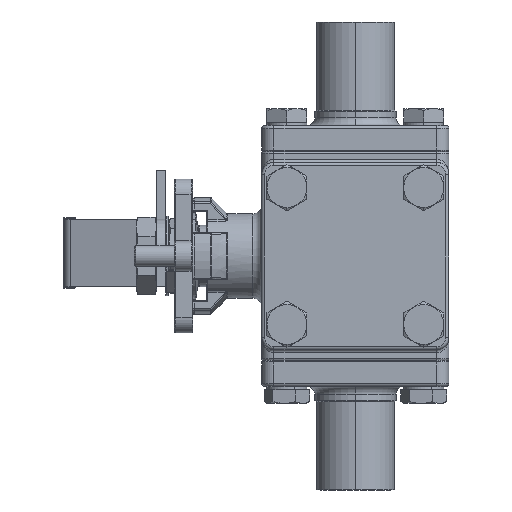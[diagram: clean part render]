
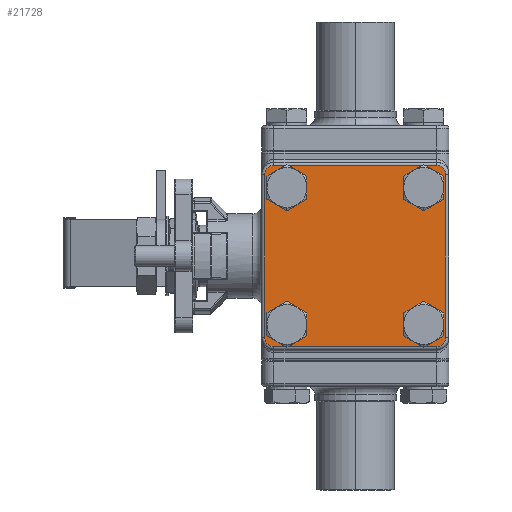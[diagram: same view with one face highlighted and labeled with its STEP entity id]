
A CAD part, left-side view. The second image highlights one B-rep face of the part: STEP entity #21728.
In plain terms, the highlighted planar face has unit normal (-1, 0, 0) as drawn and (0, 0, 1) by its records, which use the part's own axes.
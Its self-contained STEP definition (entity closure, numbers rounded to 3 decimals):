
#344 = ORIENTED_EDGE ( 'NONE', *, *, #7309, .F. ) ;
#504 = FACE_BOUND ( 'NONE', #26046, .T. ) ;
#784 = CARTESIAN_POINT ( 'NONE',  ( 26.5, -29.5, 7. ) ) ;
#1365 = CARTESIAN_POINT ( 'NONE',  ( 22.274, 22.274, 7. ) ) ;
#1380 = VERTEX_POINT ( 'NONE', #20050 ) ;
#1563 = DIRECTION ( 'NONE',  ( 1., 0., 0. ) ) ;
#2335 = EDGE_CURVE ( 'NONE', #16584, #25704, #28468, .T. ) ;
#3190 = DIRECTION ( 'NONE',  ( 0., 0., 1. ) ) ;
#3837 = AXIS2_PLACEMENT_3D ( 'NONE', #24438, #5928, #24313 ) ;
#3870 = DIRECTION ( 'NONE',  ( 1., 0., 0. ) ) ;
#3921 = EDGE_LOOP ( 'NONE', ( #33376, #10605 ) ) ;
#3970 = LINE ( 'NONE', #10230, #24804 ) ;
#4074 = ORIENTED_EDGE ( 'NONE', *, *, #11111, .T. ) ;
#4133 = EDGE_CURVE ( 'NONE', #21321, #20238, #14710, .T. ) ;
#4244 = DIRECTION ( 'NONE',  ( 1., 0., 0. ) ) ;
#4262 = CARTESIAN_POINT ( 'NONE',  ( 29.5, 26.5, 7. ) ) ;
#4586 = CARTESIAN_POINT ( 'NONE',  ( -22.274, 22.274, 7. ) ) ;
#4723 = ORIENTED_EDGE ( 'NONE', *, *, #30324, .T. ) ;
#5213 = AXIS2_PLACEMENT_3D ( 'NONE', #9221, #17485, #1563 ) ;
#5489 = DIRECTION ( 'NONE',  ( 0., 0., 1. ) ) ;
#5542 = CARTESIAN_POINT ( 'NONE',  ( -26.5, -26.5, 7. ) ) ;
#5695 = VECTOR ( 'NONE', #24724, 1000. ) ;
#5829 = ORIENTED_EDGE ( 'NONE', *, *, #4133, .T. ) ;
#5928 = DIRECTION ( 'NONE',  ( 0., 0., 1. ) ) ;
#6540 = LINE ( 'NONE', #784, #5695 ) ;
#6738 = EDGE_CURVE ( 'NONE', #11920, #21321, #16259, .T. ) ;
#6892 = VERTEX_POINT ( 'NONE', #11539 ) ;
#7008 = CARTESIAN_POINT ( 'NONE',  ( 29.5, 26.5, 7. ) ) ;
#7091 = CIRCLE ( 'NONE', #12748, 4.5 ) ;
#7130 = DIRECTION ( 'NONE',  ( 1., 0., 0. ) ) ;
#7219 = CIRCLE ( 'NONE', #29621, 4.5 ) ;
#7309 = EDGE_CURVE ( 'NONE', #14213, #1380, #7091, .T. ) ;
#7337 = DIRECTION ( 'NONE',  ( 0., 0., 1. ) ) ;
#8015 = CIRCLE ( 'NONE', #25501, 4.5 ) ;
#8991 = CARTESIAN_POINT ( 'NONE',  ( 22.274, -22.274, 7. ) ) ;
#9092 = EDGE_CURVE ( 'NONE', #21167, #33861, #29851, .T. ) ;
#9209 = AXIS2_PLACEMENT_3D ( 'NONE', #20068, #25390, #3870 ) ;
#9221 = CARTESIAN_POINT ( 'NONE',  ( -22.274, 22.274, 7. ) ) ;
#9286 = ORIENTED_EDGE ( 'NONE', *, *, #11095, .T. ) ;
#9577 = DIRECTION ( 'NONE',  ( 0., 0., 1. ) ) ;
#9897 = VERTEX_POINT ( 'NONE', #23008 ) ;
#10013 = CARTESIAN_POINT ( 'NONE',  ( -17.774, -22.274, 7. ) ) ;
#10124 = DIRECTION ( 'NONE',  ( 1., 0., 0. ) ) ;
#10195 = DIRECTION ( 'NONE',  ( 0., 0., 1. ) ) ;
#10230 = CARTESIAN_POINT ( 'NONE',  ( -26.5, 29.5, 7. ) ) ;
#10453 = PLANE ( 'NONE',  #21633 ) ;
#10484 = EDGE_CURVE ( 'NONE', #21372, #11722, #17790, .T. ) ;
#10605 = ORIENTED_EDGE ( 'NONE', *, *, #9092, .F. ) ;
#10792 = DIRECTION ( 'NONE',  ( 0., 0., 1. ) ) ;
#11095 = EDGE_CURVE ( 'NONE', #27937, #9897, #33900, .T. ) ;
#11111 = EDGE_CURVE ( 'NONE', #31899, #6892, #3970, .T. ) ;
#11539 = CARTESIAN_POINT ( 'NONE',  ( -26.5, 29.5, 7. ) ) ;
#11722 = VERTEX_POINT ( 'NONE', #25983 ) ;
#11914 = AXIS2_PLACEMENT_3D ( 'NONE', #29029, #18247, #13223 ) ;
#11920 = VERTEX_POINT ( 'NONE', #21778 ) ;
#12538 = CIRCLE ( 'NONE', #3837, 3. ) ;
#12748 = AXIS2_PLACEMENT_3D ( 'NONE', #1365, #27953, #30643 ) ;
#12774 = DIRECTION ( 'NONE',  ( 0., -1., 0. ) ) ;
#12808 = ORIENTED_EDGE ( 'NONE', *, *, #31864, .F. ) ;
#12862 = DIRECTION ( 'NONE',  ( 1., 0., 0. ) ) ;
#12936 = ORIENTED_EDGE ( 'NONE', *, *, #2335, .F. ) ;
#13223 = DIRECTION ( 'NONE',  ( 1., 0., 0. ) ) ;
#13505 = DIRECTION ( 'NONE',  ( 1., 0., 0. ) ) ;
#13645 = CARTESIAN_POINT ( 'NONE',  ( 26.774, -22.274, 7. ) ) ;
#14213 = VERTEX_POINT ( 'NONE', #24212 ) ;
#14234 = FACE_BOUND ( 'NONE', #3921, .T. ) ;
#14403 = EDGE_CURVE ( 'NONE', #33861, #21167, #8015, .T. ) ;
#14710 = LINE ( 'NONE', #4262, #30521 ) ;
#14763 = ORIENTED_EDGE ( 'NONE', *, *, #25409, .T. ) ;
#15059 = CIRCLE ( 'NONE', #25763, 3. ) ;
#15121 = EDGE_CURVE ( 'NONE', #9897, #25590, #15059, .T. ) ;
#15923 = EDGE_LOOP ( 'NONE', ( #344, #21529 ) ) ;
#16144 = DIRECTION ( 'NONE',  ( 1., 0., 0. ) ) ;
#16259 = CIRCLE ( 'NONE', #29831, 3. ) ;
#16461 = ORIENTED_EDGE ( 'NONE', *, *, #15121, .T. ) ;
#16584 = VERTEX_POINT ( 'NONE', #10013 ) ;
#17231 = CARTESIAN_POINT ( 'NONE',  ( -26.774, 22.274, 7. ) ) ;
#17485 = DIRECTION ( 'NONE',  ( 0., 0., 1. ) ) ;
#17790 = CIRCLE ( 'NONE', #22629, 4.5 ) ;
#17882 = CARTESIAN_POINT ( 'NONE',  ( -26.774, -22.274, 7. ) ) ;
#18247 = DIRECTION ( 'NONE',  ( 0., 0., 1. ) ) ;
#18396 = FACE_BOUND ( 'NONE', #15923, .T. ) ;
#18562 = CARTESIAN_POINT ( 'NONE',  ( 17.774, -22.274, 7. ) ) ;
#18863 = CARTESIAN_POINT ( 'NONE',  ( 22.274, 22.274, 7. ) ) ;
#19217 = ORIENTED_EDGE ( 'NONE', *, *, #32136, .T. ) ;
#19820 = VECTOR ( 'NONE', #12774, 1000. ) ;
#19876 = CARTESIAN_POINT ( 'NONE',  ( -29.5, 26.5, 7. ) ) ;
#20050 = CARTESIAN_POINT ( 'NONE',  ( 26.774, 22.274, 7. ) ) ;
#20068 = CARTESIAN_POINT ( 'NONE',  ( -22.274, -22.274, 7. ) ) ;
#20238 = VERTEX_POINT ( 'NONE', #7008 ) ;
#20584 = ORIENTED_EDGE ( 'NONE', *, *, #24450, .F. ) ;
#20936 = DIRECTION ( 'NONE',  ( -1., 0., 0. ) ) ;
#21167 = VERTEX_POINT ( 'NONE', #13645 ) ;
#21321 = VERTEX_POINT ( 'NONE', #32775 ) ;
#21372 = VERTEX_POINT ( 'NONE', #17231 ) ;
#21448 = CARTESIAN_POINT ( 'NONE',  ( 26.5, -26.5, 7. ) ) ;
#21529 = ORIENTED_EDGE ( 'NONE', *, *, #29492, .F. ) ;
#21540 = DIRECTION ( 'NONE',  ( 0., 0., 1. ) ) ;
#21633 = AXIS2_PLACEMENT_3D ( 'NONE', #28819, #7337, #10124 ) ;
#21728 = ADVANCED_FACE ( 'NONE', ( #28375, #22561, #18396, #14234, #504 ), #10453, .T. ) ;
#21778 = CARTESIAN_POINT ( 'NONE',  ( 26.5, -29.5, 7. ) ) ;
#21918 = DIRECTION ( 'NONE',  ( 1., 0., 0. ) ) ;
#22497 = CARTESIAN_POINT ( 'NONE',  ( 26.5, 29.5, 7. ) ) ;
#22561 = FACE_BOUND ( 'NONE', #27763, .T. ) ;
#22629 = AXIS2_PLACEMENT_3D ( 'NONE', #4586, #10195, #12862 ) ;
#23008 = CARTESIAN_POINT ( 'NONE',  ( -29.5, -26.5, 7. ) ) ;
#24103 = DIRECTION ( 'NONE',  ( 1., 0., 0. ) ) ;
#24169 = CIRCLE ( 'NONE', #9209, 4.5 ) ;
#24212 = CARTESIAN_POINT ( 'NONE',  ( 17.774, 22.274, 7. ) ) ;
#24313 = DIRECTION ( 'NONE',  ( 1., 0., 0. ) ) ;
#24438 = CARTESIAN_POINT ( 'NONE',  ( -26.5, 26.5, 7. ) ) ;
#24450 = EDGE_CURVE ( 'NONE', #11722, #21372, #24898, .T. ) ;
#24724 = DIRECTION ( 'NONE',  ( 1., 0., 0. ) ) ;
#24804 = VECTOR ( 'NONE', #20936, 1000. ) ;
#24815 = AXIS2_PLACEMENT_3D ( 'NONE', #8991, #3190, #21918 ) ;
#24898 = CIRCLE ( 'NONE', #5213, 4.5 ) ;
#25113 = CIRCLE ( 'NONE', #34330, 3. ) ;
#25390 = DIRECTION ( 'NONE',  ( 0., 0., 1. ) ) ;
#25409 = EDGE_CURVE ( 'NONE', #25590, #11920, #6540, .T. ) ;
#25426 = CARTESIAN_POINT ( 'NONE',  ( 26.5, 26.5, 7. ) ) ;
#25501 = AXIS2_PLACEMENT_3D ( 'NONE', #33452, #9577, #7130 ) ;
#25590 = VERTEX_POINT ( 'NONE', #33155 ) ;
#25704 = VERTEX_POINT ( 'NONE', #17882 ) ;
#25763 = AXIS2_PLACEMENT_3D ( 'NONE', #5542, #10792, #16144 ) ;
#25771 = DIRECTION ( 'NONE',  ( 0., 0., 1. ) ) ;
#25983 = CARTESIAN_POINT ( 'NONE',  ( -17.774, 22.274, 7. ) ) ;
#26046 = EDGE_LOOP ( 'NONE', ( #28080, #20584 ) ) ;
#26344 = EDGE_LOOP ( 'NONE', ( #5829, #4723, #4074, #19217, #9286, #16461, #14763, #32419 ) ) ;
#26356 = CARTESIAN_POINT ( 'NONE',  ( -29.5, -26.5, 7. ) ) ;
#27763 = EDGE_LOOP ( 'NONE', ( #12808, #12936 ) ) ;
#27937 = VERTEX_POINT ( 'NONE', #19876 ) ;
#27953 = DIRECTION ( 'NONE',  ( 0., 0., 1. ) ) ;
#28080 = ORIENTED_EDGE ( 'NONE', *, *, #10484, .F. ) ;
#28375 = FACE_OUTER_BOUND ( 'NONE', #26344, .T. ) ;
#28468 = CIRCLE ( 'NONE', #11914, 4.5 ) ;
#28819 = CARTESIAN_POINT ( 'NONE',  ( 26.5, -26.5, 7. ) ) ;
#29029 = CARTESIAN_POINT ( 'NONE',  ( -22.274, -22.274, 7. ) ) ;
#29492 = EDGE_CURVE ( 'NONE', #1380, #14213, #7219, .T. ) ;
#29621 = AXIS2_PLACEMENT_3D ( 'NONE', #18863, #21540, #13505 ) ;
#29831 = AXIS2_PLACEMENT_3D ( 'NONE', #21448, #5489, #24103 ) ;
#29851 = CIRCLE ( 'NONE', #24815, 4.5 ) ;
#30310 = DIRECTION ( 'NONE',  ( 0., 1., 0. ) ) ;
#30324 = EDGE_CURVE ( 'NONE', #20238, #31899, #25113, .T. ) ;
#30521 = VECTOR ( 'NONE', #30310, 1000. ) ;
#30643 = DIRECTION ( 'NONE',  ( 1., 0., 0. ) ) ;
#31864 = EDGE_CURVE ( 'NONE', #25704, #16584, #24169, .T. ) ;
#31899 = VERTEX_POINT ( 'NONE', #22497 ) ;
#32136 = EDGE_CURVE ( 'NONE', #6892, #27937, #12538, .T. ) ;
#32419 = ORIENTED_EDGE ( 'NONE', *, *, #6738, .T. ) ;
#32775 = CARTESIAN_POINT ( 'NONE',  ( 29.5, -26.5, 7. ) ) ;
#33155 = CARTESIAN_POINT ( 'NONE',  ( -26.5, -29.5, 7. ) ) ;
#33376 = ORIENTED_EDGE ( 'NONE', *, *, #14403, .F. ) ;
#33452 = CARTESIAN_POINT ( 'NONE',  ( 22.274, -22.274, 7. ) ) ;
#33861 = VERTEX_POINT ( 'NONE', #18562 ) ;
#33900 = LINE ( 'NONE', #26356, #19820 ) ;
#34330 = AXIS2_PLACEMENT_3D ( 'NONE', #25426, #25771, #4244 ) ;
